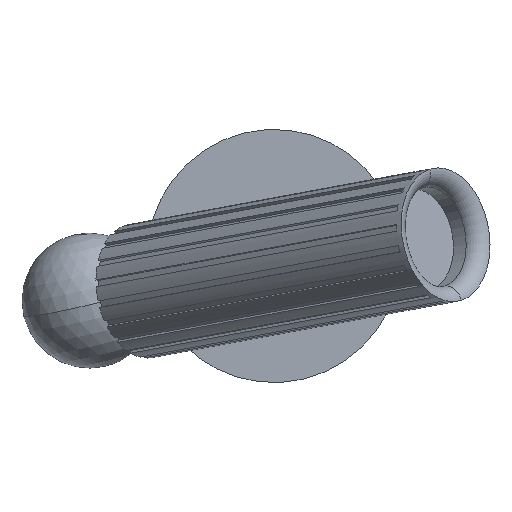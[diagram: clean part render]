
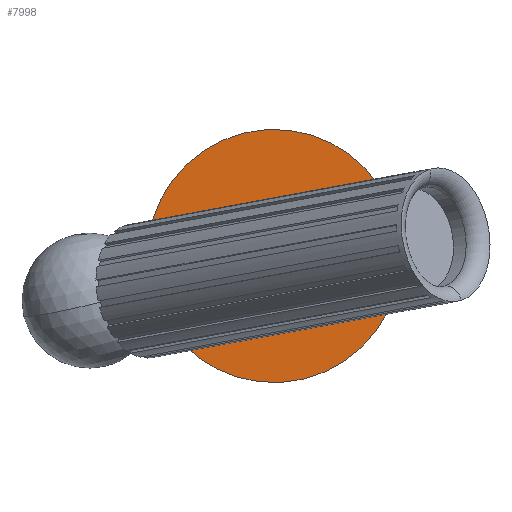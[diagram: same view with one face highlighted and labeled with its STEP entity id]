
A CAD part, front view. The second image highlights one B-rep face of the part: STEP entity #7998.
In plain terms, the highlighted planar face has unit normal (0, -1, 0).
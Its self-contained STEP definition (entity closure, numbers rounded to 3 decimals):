
#165 = EDGE_LOOP ( 'NONE', ( #1251, #3686 ) ) ;
#275 = DIRECTION ( 'NONE',  ( -0.023, 0., 1. ) ) ;
#825 = CIRCLE ( 'NONE', #8974, 37.5 ) ;
#1104 = DIRECTION ( 'NONE',  ( 0., 1., 0. ) ) ;
#1217 = EDGE_CURVE ( 'NONE', #12514, #8629, #6928, .T. ) ;
#1251 = ORIENTED_EDGE ( 'NONE', *, *, #3023, .T. ) ;
#1302 = EDGE_LOOP ( 'NONE', ( #4488, #9194 ) ) ;
#1440 = DIRECTION ( 'NONE',  ( 0., 1., 0. ) ) ;
#2024 = DIRECTION ( 'NONE',  ( -1., 0., -0.023 ) ) ;
#2110 = EDGE_CURVE ( 'NONE', #8629, #12514, #825, .T. ) ;
#2115 = CIRCLE ( 'NONE', #2876, 5. ) ;
#2876 = AXIS2_PLACEMENT_3D ( 'NONE', #15192, #3302, #2024 ) ;
#3023 = EDGE_CURVE ( 'NONE', #3298, #7100, #12833, .T. ) ;
#3030 = EDGE_CURVE ( 'NONE', #7100, #3298, #2115, .T. ) ;
#3046 = CARTESIAN_POINT ( 'NONE',  ( -3.292, 48.701, 0.869 ) ) ;
#3075 = PLANE ( 'NONE',  #3200 ) ;
#3200 = AXIS2_PLACEMENT_3D ( 'NONE', #5158, #6354, #275 ) ;
#3298 = VERTEX_POINT ( 'NONE', #9512 ) ;
#3302 = DIRECTION ( 'NONE',  ( 0., 1., 0. ) ) ;
#3686 = ORIENTED_EDGE ( 'NONE', *, *, #3030, .T. ) ;
#4488 = ORIENTED_EDGE ( 'NONE', *, *, #1217, .F. ) ;
#4643 = DIRECTION ( 'NONE',  ( 0., 0., 1. ) ) ;
#5158 = CARTESIAN_POINT ( 'NONE',  ( -40.782, 48.701, 0. ) ) ;
#5179 = AXIS2_PLACEMENT_3D ( 'NONE', #5707, #12972, #10397 ) ;
#5707 = CARTESIAN_POINT ( 'NONE',  ( -40.782, 48.701, 0. ) ) ;
#6354 = DIRECTION ( 'NONE',  ( 0., 1., 0. ) ) ;
#6928 = CIRCLE ( 'NONE', #12284, 37.5 ) ;
#7100 = VERTEX_POINT ( 'NONE', #15225 ) ;
#7998 = ADVANCED_FACE ( 'NONE', ( #10095, #14980 ), #3075, .F. ) ;
#8629 = VERTEX_POINT ( 'NONE', #10073 ) ;
#8974 = AXIS2_PLACEMENT_3D ( 'NONE', #12198, #1104, #4643 ) ;
#9194 = ORIENTED_EDGE ( 'NONE', *, *, #2110, .F. ) ;
#9512 = CARTESIAN_POINT ( 'NONE',  ( -35.783, 48.701, 0.116 ) ) ;
#10057 = CARTESIAN_POINT ( 'NONE',  ( -40.782, 48.701, 0. ) ) ;
#10073 = CARTESIAN_POINT ( 'NONE',  ( -78.272, 48.701, -0.869 ) ) ;
#10095 = FACE_BOUND ( 'NONE', #165, .T. ) ;
#10397 = DIRECTION ( 'NONE',  ( -1., 0., -0.023 ) ) ;
#12198 = CARTESIAN_POINT ( 'NONE',  ( -40.782, 48.701, 0. ) ) ;
#12284 = AXIS2_PLACEMENT_3D ( 'NONE', #10057, #1440, #15025 ) ;
#12514 = VERTEX_POINT ( 'NONE', #3046 ) ;
#12833 = CIRCLE ( 'NONE', #5179, 5. ) ;
#12972 = DIRECTION ( 'NONE',  ( 0., 1., 0. ) ) ;
#14980 = FACE_OUTER_BOUND ( 'NONE', #1302, .T. ) ;
#15025 = DIRECTION ( 'NONE',  ( 0., 0., 1. ) ) ;
#15192 = CARTESIAN_POINT ( 'NONE',  ( -40.782, 48.701, 0. ) ) ;
#15225 = CARTESIAN_POINT ( 'NONE',  ( -45.781, 48.701, -0.116 ) ) ;
